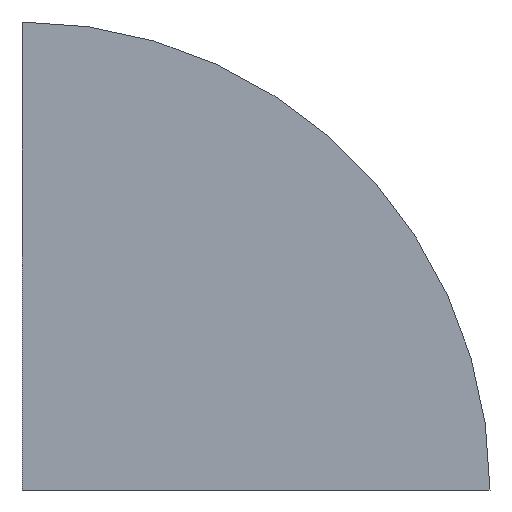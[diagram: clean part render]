
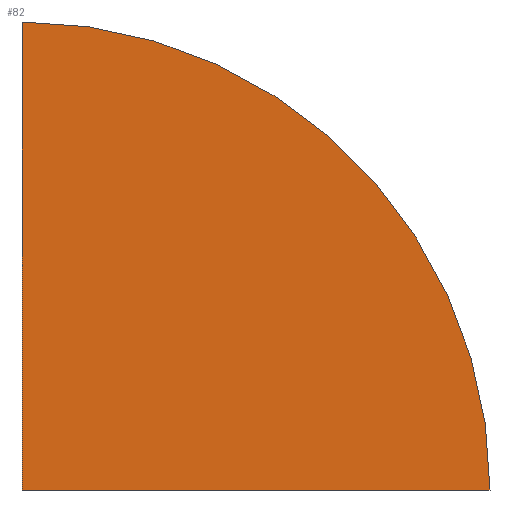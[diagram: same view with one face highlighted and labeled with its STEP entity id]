
A CAD part, front view. The second image highlights one B-rep face of the part: STEP entity #82.
In plain terms, the highlighted planar face has unit normal (0, -1, 0).
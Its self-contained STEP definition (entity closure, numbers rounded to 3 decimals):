
#51=CARTESIAN_POINT('Axis2P3D Location',(0.,0.,0.)) ;
#56=CARTESIAN_POINT('Line Origine',(58.5,0.,0.)) ;
#60=CARTESIAN_POINT('Vertex',(0.,0.,0.)) ;
#62=CARTESIAN_POINT('Vertex',(117.,0.,0.)) ;
#65=CARTESIAN_POINT('Axis2P3D Location',(0.,0.,0.)) ;
#69=CARTESIAN_POINT('Vertex',(0.,0.,117.)) ;
#72=CARTESIAN_POINT('Line Origine',(0.,0.,58.5)) ;
#52=DIRECTION('Axis2P3D Direction',(0.,-1.,0.)) ;
#53=DIRECTION('Axis2P3D XDirection',(1.,0.,0.)) ;
#57=DIRECTION('Vector Direction',(1.,0.,0.)) ;
#66=DIRECTION('Axis2P3D Direction',(0.,-1.,0.)) ;
#73=DIRECTION('Vector Direction',(0.,0.,1.)) ;
#54=AXIS2_PLACEMENT_3D('Plane Axis2P3D',#51,#52,#53) ;
#67=AXIS2_PLACEMENT_3D('Circle Axis2P3D',#65,#66,$) ;
#78=ORIENTED_EDGE('',*,*,#64,.T.) ;
#79=ORIENTED_EDGE('',*,*,#71,.T.) ;
#80=ORIENTED_EDGE('',*,*,#76,.F.) ;
#58=VECTOR('Line Direction',#57,1.) ;
#74=VECTOR('Line Direction',#73,1.) ;
#82=ADVANCED_FACE('PartBody',(#81),#55,.T.) ;
#68=CIRCLE('generated circle',#67,117.) ;
#64=EDGE_CURVE('',#61,#63,#59,.T.) ;
#71=EDGE_CURVE('',#63,#70,#68,.T.) ;
#76=EDGE_CURVE('',#61,#70,#75,.T.) ;
#77=EDGE_LOOP('',(#78,#79,#80)) ;
#81=FACE_OUTER_BOUND('',#77,.T.) ;
#59=LINE('Line',#56,#58) ;
#75=LINE('Line',#72,#74) ;
#55=PLANE('',#54) ;
#61=VERTEX_POINT('',#60) ;
#63=VERTEX_POINT('',#62) ;
#70=VERTEX_POINT('',#69) ;
